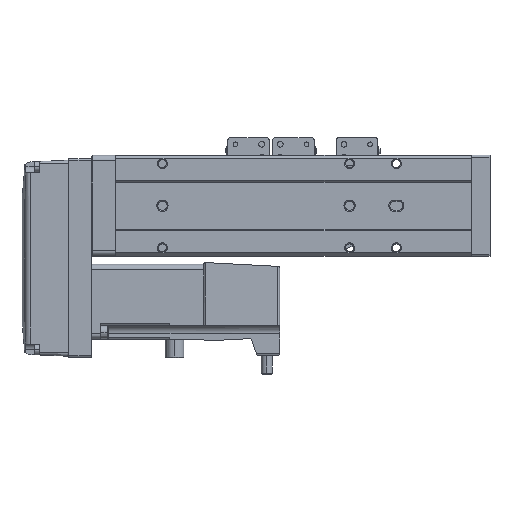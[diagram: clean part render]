
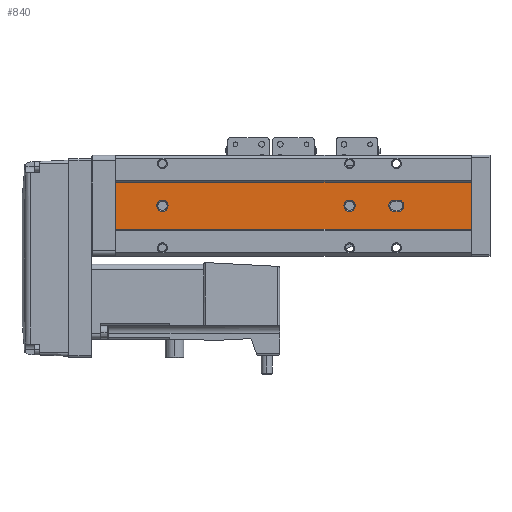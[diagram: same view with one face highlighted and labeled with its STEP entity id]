
A CAD part, front view. The second image highlights one B-rep face of the part: STEP entity #840.
In plain terms, the highlighted planar face has unit normal (0, -1, 0).
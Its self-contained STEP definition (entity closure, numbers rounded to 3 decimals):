
#93 = CARTESIAN_POINT ( 'NONE',  ( -58.181, -208.497, 168. ) ) ;
#353 = CARTESIAN_POINT ( 'NONE',  ( -61.181, -208.497, 41. ) ) ;
#479 = DIRECTION ( 'NONE',  ( 0., 0., 1. ) ) ;
#755 = EDGE_CURVE ( 'NONE', #3430, #27979, #18684, .T. ) ;
#840 = ADVANCED_FACE ( 'NONE', ( #21710, #29964, #8212, #22569 ), #26661, .F. ) ;
#1155 = VECTOR ( 'NONE', #15277, 1000. ) ;
#1594 = ORIENTED_EDGE ( 'NONE', *, *, #27048, .T. ) ;
#1834 = EDGE_CURVE ( 'NONE', #15189, #34964, #28535, .T. ) ;
#2144 = ORIENTED_EDGE ( 'NONE', *, *, #15446, .T. ) ;
#2331 = CIRCLE ( 'NONE', #14812, 3. ) ;
#2541 = EDGE_CURVE ( 'NONE', #15469, #9038, #9833, .T. ) ;
#2695 = DIRECTION ( 'NONE',  ( 0., 1., 0. ) ) ;
#3301 = CARTESIAN_POINT ( 'NONE',  ( -58.181, -208.497, 165. ) ) ;
#3391 = DIRECTION ( 'NONE',  ( 0., 1., 0. ) ) ;
#3430 = VERTEX_POINT ( 'NONE', #11120 ) ;
#3658 = AXIS2_PLACEMENT_3D ( 'NONE', #34580, #29208, #9695 ) ;
#4673 = ORIENTED_EDGE ( 'NONE', *, *, #28080, .T. ) ;
#5058 = DIRECTION ( 'NONE',  ( 0., 1., 0. ) ) ;
#5185 = VERTEX_POINT ( 'NONE', #17493 ) ;
#5611 = DIRECTION ( 'NONE',  ( 0., 1., 0. ) ) ;
#5904 = AXIS2_PLACEMENT_3D ( 'NONE', #19415, #2695, #24969 ) ;
#6378 = EDGE_CURVE ( 'NONE', #10838, #20203, #22678, .T. ) ;
#6396 = CIRCLE ( 'NONE', #19742, 3. ) ;
#6527 = CARTESIAN_POINT ( 'NONE',  ( -61.181, -208.497, 190. ) ) ;
#6532 = CARTESIAN_POINT ( 'NONE',  ( -58.181, -208.497, 165. ) ) ;
#6580 = LINE ( 'NONE', #6527, #19615 ) ;
#7061 = CARTESIAN_POINT ( 'NONE',  ( -58.181, -208.497, 41. ) ) ;
#7105 = CARTESIAN_POINT ( 'NONE',  ( -70.681, -208.497, 0. ) ) ;
#7510 = ORIENTED_EDGE ( 'NONE', *, *, #755, .T. ) ;
#7737 = CARTESIAN_POINT ( 'NONE',  ( -58.181, -208.497, 65. ) ) ;
#8095 = DIRECTION ( 'NONE',  ( 0., 1., 0. ) ) ;
#8212 = FACE_BOUND ( 'NONE', #33339, .T. ) ;
#8296 = CARTESIAN_POINT ( 'NONE',  ( -70.681, -208.497, 190. ) ) ;
#8317 = ORIENTED_EDGE ( 'NONE', *, *, #12962, .T. ) ;
#9038 = VERTEX_POINT ( 'NONE', #17919 ) ;
#9695 = DIRECTION ( 'NONE',  ( 0., 0., 1. ) ) ;
#9737 = DIRECTION ( 'NONE',  ( 0., 0., 1. ) ) ;
#9833 = LINE ( 'NONE', #18517, #12915 ) ;
#10224 = CIRCLE ( 'NONE', #28199, 3. ) ;
#10838 = VERTEX_POINT ( 'NONE', #25198 ) ;
#11120 = CARTESIAN_POINT ( 'NONE',  ( -55.181, -208.497, 41. ) ) ;
#11306 = VECTOR ( 'NONE', #32526, 1000. ) ;
#11881 = VERTEX_POINT ( 'NONE', #353 ) ;
#12211 = CARTESIAN_POINT ( 'NONE',  ( -61.181, -208.497, 39. ) ) ;
#12409 = EDGE_CURVE ( 'NONE', #34964, #15189, #6396, .T. ) ;
#12915 = VECTOR ( 'NONE', #24077, 1000. ) ;
#12962 = EDGE_CURVE ( 'NONE', #17655, #18599, #34623, .T. ) ;
#13097 = CIRCLE ( 'NONE', #5904, 3. ) ;
#13210 = AXIS2_PLACEMENT_3D ( 'NONE', #24114, #8095, #16161 ) ;
#13371 = CARTESIAN_POINT ( 'NONE',  ( -70.681, -208.497, 190. ) ) ;
#13630 = ORIENTED_EDGE ( 'NONE', *, *, #2541, .F. ) ;
#13664 = CARTESIAN_POINT ( 'NONE',  ( -58.181, -208.497, 68. ) ) ;
#13714 = DIRECTION ( 'NONE',  ( 0., 0., 1. ) ) ;
#13858 = AXIS2_PLACEMENT_3D ( 'NONE', #3301, #5611, #28050 ) ;
#13981 = VERTEX_POINT ( 'NONE', #12211 ) ;
#14211 = EDGE_LOOP ( 'NONE', ( #34598, #22209 ) ) ;
#14812 = AXIS2_PLACEMENT_3D ( 'NONE', #7061, #31946, #9737 ) ;
#14950 = EDGE_CURVE ( 'NONE', #17655, #15469, #19821, .T. ) ;
#15189 = VERTEX_POINT ( 'NONE', #13664 ) ;
#15277 = DIRECTION ( 'NONE',  ( 1., 0., 0. ) ) ;
#15446 = EDGE_CURVE ( 'NONE', #27979, #5185, #10224, .T. ) ;
#15469 = VERTEX_POINT ( 'NONE', #19284 ) ;
#15648 = ORIENTED_EDGE ( 'NONE', *, *, #6378, .T. ) ;
#16161 = DIRECTION ( 'NONE',  ( 0., 0., 1. ) ) ;
#16759 = ORIENTED_EDGE ( 'NONE', *, *, #35376, .T. ) ;
#17493 = CARTESIAN_POINT ( 'NONE',  ( -58.181, -208.497, 36. ) ) ;
#17655 = VERTEX_POINT ( 'NONE', #8296 ) ;
#17919 = CARTESIAN_POINT ( 'NONE',  ( -45.681, -208.497, 0. ) ) ;
#18517 = CARTESIAN_POINT ( 'NONE',  ( -45.681, -208.497, 190. ) ) ;
#18599 = VERTEX_POINT ( 'NONE', #35070 ) ;
#18684 = LINE ( 'NONE', #29707, #11306 ) ;
#18940 = DIRECTION ( 'NONE',  ( 0., 0., -1. ) ) ;
#19220 = VECTOR ( 'NONE', #26508, 1000. ) ;
#19284 = CARTESIAN_POINT ( 'NONE',  ( -45.681, -208.497, 190. ) ) ;
#19415 = CARTESIAN_POINT ( 'NONE',  ( -58.181, -208.497, 39. ) ) ;
#19615 = VECTOR ( 'NONE', #26297, 1000. ) ;
#19742 = AXIS2_PLACEMENT_3D ( 'NONE', #7737, #5058, #27141 ) ;
#19821 = LINE ( 'NONE', #20855, #1155 ) ;
#20203 = VERTEX_POINT ( 'NONE', #93 ) ;
#20407 = EDGE_CURVE ( 'NONE', #18599, #9038, #34902, .T. ) ;
#20546 = CARTESIAN_POINT ( 'NONE',  ( -58.181, -208.497, 62. ) ) ;
#20719 = EDGE_LOOP ( 'NONE', ( #15648, #1594 ) ) ;
#20855 = CARTESIAN_POINT ( 'NONE',  ( -70.681, -208.497, 190. ) ) ;
#21710 = FACE_BOUND ( 'NONE', #20719, .T. ) ;
#21735 = DIRECTION ( 'NONE',  ( 0., 1., 0. ) ) ;
#22209 = ORIENTED_EDGE ( 'NONE', *, *, #1834, .T. ) ;
#22569 = FACE_OUTER_BOUND ( 'NONE', #29283, .T. ) ;
#22678 = CIRCLE ( 'NONE', #26076, 3. ) ;
#24077 = DIRECTION ( 'NONE',  ( 0., 0., -1. ) ) ;
#24114 = CARTESIAN_POINT ( 'NONE',  ( -70.681, -208.497, 190. ) ) ;
#24138 = ORIENTED_EDGE ( 'NONE', *, *, #20407, .T. ) ;
#24832 = CIRCLE ( 'NONE', #13858, 3. ) ;
#24969 = DIRECTION ( 'NONE',  ( 0., 0., 1. ) ) ;
#25041 = ORIENTED_EDGE ( 'NONE', *, *, #28522, .T. ) ;
#25198 = CARTESIAN_POINT ( 'NONE',  ( -58.181, -208.497, 162. ) ) ;
#25465 = VECTOR ( 'NONE', #18940, 1000. ) ;
#26076 = AXIS2_PLACEMENT_3D ( 'NONE', #6532, #3391, #479 ) ;
#26297 = DIRECTION ( 'NONE',  ( 0., 0., 1. ) ) ;
#26508 = DIRECTION ( 'NONE',  ( 1., 0., 0. ) ) ;
#26661 = PLANE ( 'NONE',  #13210 ) ;
#27048 = EDGE_CURVE ( 'NONE', #20203, #10838, #24832, .T. ) ;
#27141 = DIRECTION ( 'NONE',  ( 0., 0., 1. ) ) ;
#27979 = VERTEX_POINT ( 'NONE', #29009 ) ;
#28050 = DIRECTION ( 'NONE',  ( 0., 0., 1. ) ) ;
#28080 = EDGE_CURVE ( 'NONE', #11881, #3430, #2331, .T. ) ;
#28199 = AXIS2_PLACEMENT_3D ( 'NONE', #30092, #21735, #13714 ) ;
#28522 = EDGE_CURVE ( 'NONE', #13981, #11881, #6580, .T. ) ;
#28535 = CIRCLE ( 'NONE', #3658, 3. ) ;
#28624 = ORIENTED_EDGE ( 'NONE', *, *, #14950, .F. ) ;
#29009 = CARTESIAN_POINT ( 'NONE',  ( -55.181, -208.497, 39. ) ) ;
#29208 = DIRECTION ( 'NONE',  ( 0., 1., 0. ) ) ;
#29283 = EDGE_LOOP ( 'NONE', ( #24138, #13630, #28624, #8317 ) ) ;
#29707 = CARTESIAN_POINT ( 'NONE',  ( -55.181, -208.497, 190. ) ) ;
#29964 = FACE_BOUND ( 'NONE', #14211, .T. ) ;
#30092 = CARTESIAN_POINT ( 'NONE',  ( -58.181, -208.497, 39. ) ) ;
#31946 = DIRECTION ( 'NONE',  ( 0., 1., 0. ) ) ;
#32526 = DIRECTION ( 'NONE',  ( 0., 0., -1. ) ) ;
#33339 = EDGE_LOOP ( 'NONE', ( #7510, #2144, #16759, #25041, #4673 ) ) ;
#34580 = CARTESIAN_POINT ( 'NONE',  ( -58.181, -208.497, 65. ) ) ;
#34598 = ORIENTED_EDGE ( 'NONE', *, *, #12409, .T. ) ;
#34623 = LINE ( 'NONE', #13371, #25465 ) ;
#34902 = LINE ( 'NONE', #7105, #19220 ) ;
#34964 = VERTEX_POINT ( 'NONE', #20546 ) ;
#35070 = CARTESIAN_POINT ( 'NONE',  ( -70.681, -208.497, 0. ) ) ;
#35376 = EDGE_CURVE ( 'NONE', #5185, #13981, #13097, .T. ) ;
